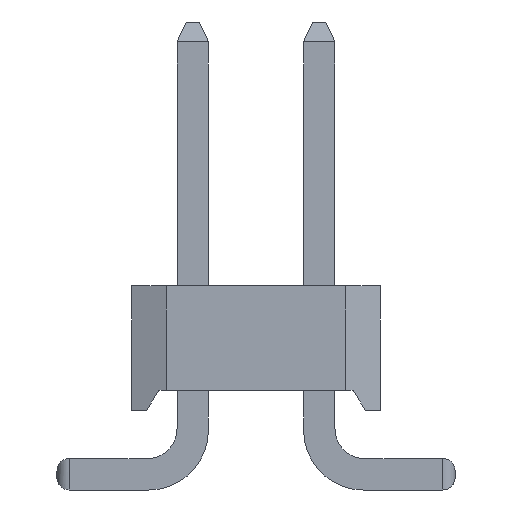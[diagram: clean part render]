
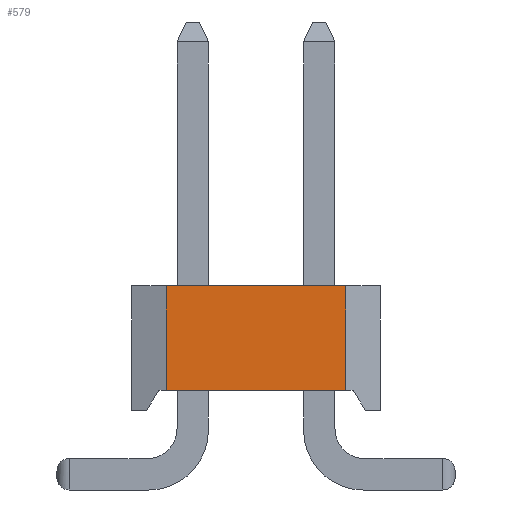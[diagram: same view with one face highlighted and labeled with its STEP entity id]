
A CAD part, left-side view. The second image highlights one B-rep face of the part: STEP entity #579.
In plain terms, the highlighted planar face has unit normal (-1, 0, 0).
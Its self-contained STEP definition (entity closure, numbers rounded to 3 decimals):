
#579=ADVANCED_FACE('',(#2123),#1447,.T.);
#1447=PLANE('',#15510);
#2123=FACE_OUTER_BOUND('',#3055,.T.);
#3055=EDGE_LOOP('',(#4466,#4467,#4468,#4469));
#4466=ORIENTED_EDGE('',*,*,#10083,.F.);
#4467=ORIENTED_EDGE('',*,*,#9948,.T.);
#4468=ORIENTED_EDGE('',*,*,#10084,.T.);
#4469=ORIENTED_EDGE('',*,*,#9780,.T.);
#8432=VERTEX_POINT('',#21258);
#8433=VERTEX_POINT('',#21260);
#8600=VERTEX_POINT('',#21598);
#8601=VERTEX_POINT('',#21599);
#9780=EDGE_CURVE('',#8433,#8432,#11930,.T.);
#9948=EDGE_CURVE('',#8600,#8601,#12098,.T.);
#10083=EDGE_CURVE('',#8600,#8432,#12233,.T.);
#10084=EDGE_CURVE('',#8601,#8433,#12234,.T.);
#11930=LINE('',#21259,#13824);
#12098=LINE('',#21597,#13992);
#12233=LINE('',#21838,#14127);
#12234=LINE('',#21839,#14128);
#13824=VECTOR('',#16901,1.);
#13992=VECTOR('',#17075,1.);
#14127=VECTOR('',#17214,1.);
#14128=VECTOR('',#17215,1.);
#15510=AXIS2_PLACEMENT_3D('',#21840,#17216,#17217);
#16901=DIRECTION('',(0.,-1.,0.));
#17075=DIRECTION('',(0.,1.,0.));
#17214=DIRECTION('',(0.,0.,-1.));
#17215=DIRECTION('',(0.,0.,-1.));
#17216=DIRECTION('',(-1.,0.,0.));
#17217=DIRECTION('',(0.,0.,1.));
#21258=CARTESIAN_POINT('',(0.,0.7,0.));
#21259=CARTESIAN_POINT('',(0.,2.5,0.));
#21260=CARTESIAN_POINT('',(0.,4.3,0.));
#21597=CARTESIAN_POINT('',(0.,2.5,2.1));
#21598=CARTESIAN_POINT('',(0.,0.7,2.1));
#21599=CARTESIAN_POINT('',(0.,4.3,2.1));
#21838=CARTESIAN_POINT('',(0.,0.7,0.));
#21839=CARTESIAN_POINT('',(0.,4.3,0.));
#21840=CARTESIAN_POINT('',(0.,2.5,0.));
